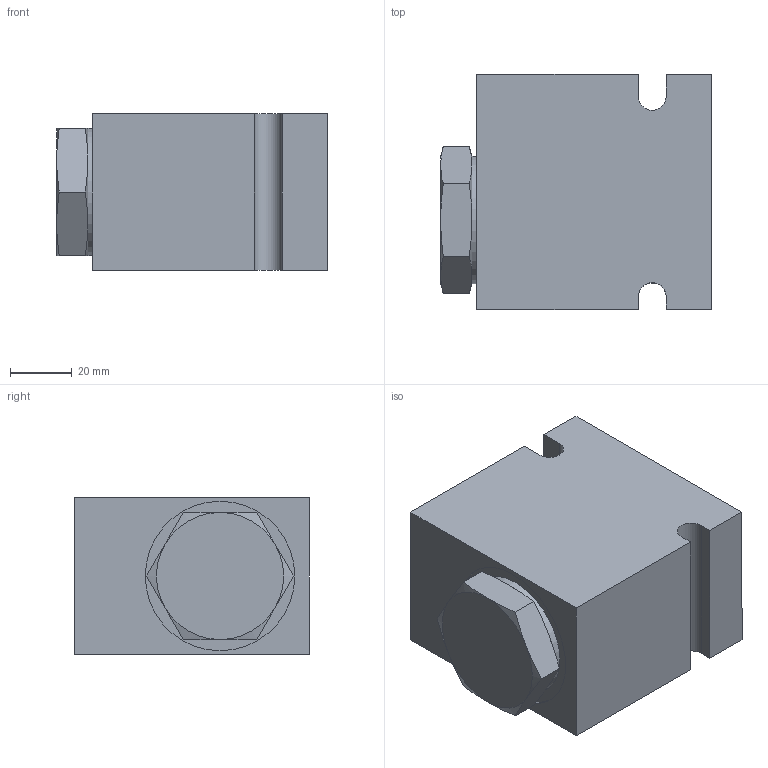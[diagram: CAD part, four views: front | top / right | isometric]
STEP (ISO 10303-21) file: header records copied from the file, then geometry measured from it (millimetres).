
FILE_DESCRIPTION(/* description */ ('Unknown'),/* implementation_level */ '2;1');
FILE_NAME(/* name */ 'SJFCF00-D2',/* time_stamp */ '2019-05-01T11:51:01+01:00',/* author */ ('Unknown'),/* organization */ ('Unknown'),/* preprocessor_version */ 'ST-DEVELOPER v16.7',/* originating_system */ 'DEX',/* authorisation */ $);
FILE_SCHEMA (('AUTOMOTIVE_DESIGN {1 0 10303 214 3 1 1}'));
Length unit declared in the file: millimetre
Products named in the file (3): SJFCF00; B-DSJD2
Assembly tree (2 placements, depth 2):
  SJFCF00
    SJFCF00
    B-DSJD2
Bounding box: 87.9 x 76.2 x 50.8 mm (x, y, z)
Volume: 256457.2 mm3; surface area: 51328.9 mm2
Topology: 6 solids, 6 shells, 158 faces, 359 edges, 228 vertices
Faces by surface type: plane 79, cylinder 39, cone 33, torus 7
Full cylindrical faces by diameter (mm): 0.2 x2, 5.156 x4, 8.636 x1, 12.954 x1, 17.482 x2, 18 x1, 18.669 x1, 23.698 x1, 24.181 x1, 24.232 x1, 24.3 x4, 25.4 x2, 28.524 x2, 28.55 x1, 28.651 x1, 30.328 x1, 31.806 x2, 35.33 x2, 41.275 x1, 44.1 x1, 48.514 x1
Entity records: 4592 total; most frequent: CARTESIAN_POINT 872, DIRECTION 583, ORIENTED_EDGE 554, EDGE_CURVE 277, AXIS2_PLACEMENT_3D 253, FACE_BOUND 245, EDGE_LOOP 243, VERTEX_POINT 210
